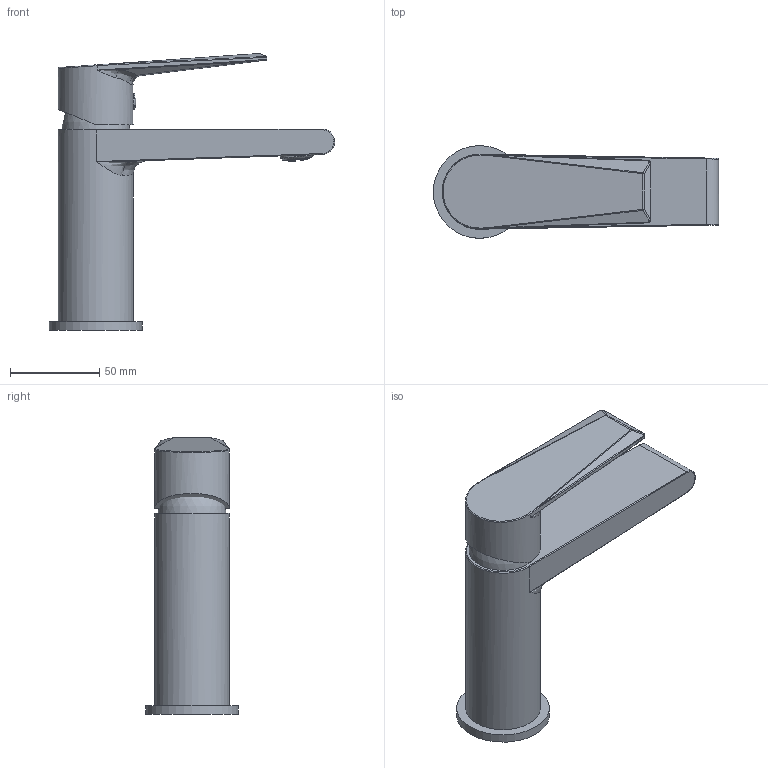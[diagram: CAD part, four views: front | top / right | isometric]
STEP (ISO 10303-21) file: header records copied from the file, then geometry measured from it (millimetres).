
FILE_DESCRIPTION(/* description */ (''),/* implementation_level */ '2;1');
FILE_NAME(/* name */ '单孔.stp',/* time_stamp */ '2024-03-01T22:26:14+08:00',/* author */ (''),/* organization */ (''),/* preprocessor_version */ 'ST-DEVELOPER v16',/* originating_system */ 'SIEMENS PLM Software NX 10.0',/* authorisation */ '');
FILE_SCHEMA (('CONFIG_CONTROL_DESIGN'));
Length unit declared in the file: millimetre
Products named in the file (1): 单孔
Bounding box: 160 x 52 x 155.37 mm (x, y, z)
Volume: 309721.2 mm3; surface area: 55139.9 mm2
Topology: 6 solids, 6 shells, 1281 faces, 3279 edges, 2158 vertices
Faces by surface type: plane 1146, cylinder 76, bspline 34, cone 13, sphere 8, torus 2, revolution 2
Full cylindrical faces by diameter (mm): 8.9 x1, 42 x2, 52 x1
Entity records: 39613 total; most frequent: CARTESIAN_POINT 7482, DIRECTION 6934, ORIENTED_EDGE 6524, EDGE_CURVE 3262, AXIS2_PLACEMENT_3D 2454, VERTEX_POINT 2155, LINE 2024, VECTOR 2024
